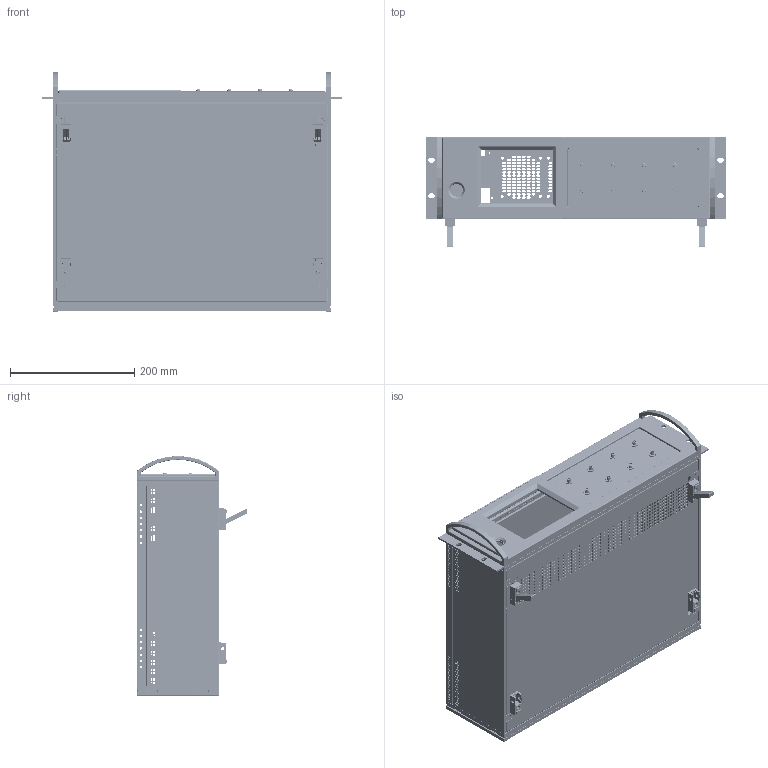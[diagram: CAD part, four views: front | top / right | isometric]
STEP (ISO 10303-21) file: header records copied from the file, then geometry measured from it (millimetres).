
FILE_DESCRIPTION((''),'2;1');
FILE_NAME('PPG1251_SHELL','2016-10-19T',('theen'),(''),'CREO PARAMETRIC BY PTC INC, 2014440','CREO PARAMETRIC BY PTC INC, 2014440','');
FILE_SCHEMA(('CONFIG_CONTROL_DESIGN'));
Products named in the file (1): PPG1251_SHELL
Bounding box: 482.67 x 177.58 x 386.38 mm (x, y, z)
Surface area: 1576664.8 mm2 (no closed solid volume)
Topology: 0 solids, 56 shells, 12930 faces, 39528 edges, 26609 vertices
Faces by surface type: plane 7020, cylinder 4712, bspline 572, cone 292, torus 170, sphere 164
Entity records: 491863 total; most frequent: CARTESIAN_POINT 126590, ORIENTED_EDGE 78546, DIRECTION 72161, EDGE_CURVE 39364, VERTEX_POINT 26596, VECTOR 24639, LINE 24639, AXIS2_PLACEMENT_3D 23761
